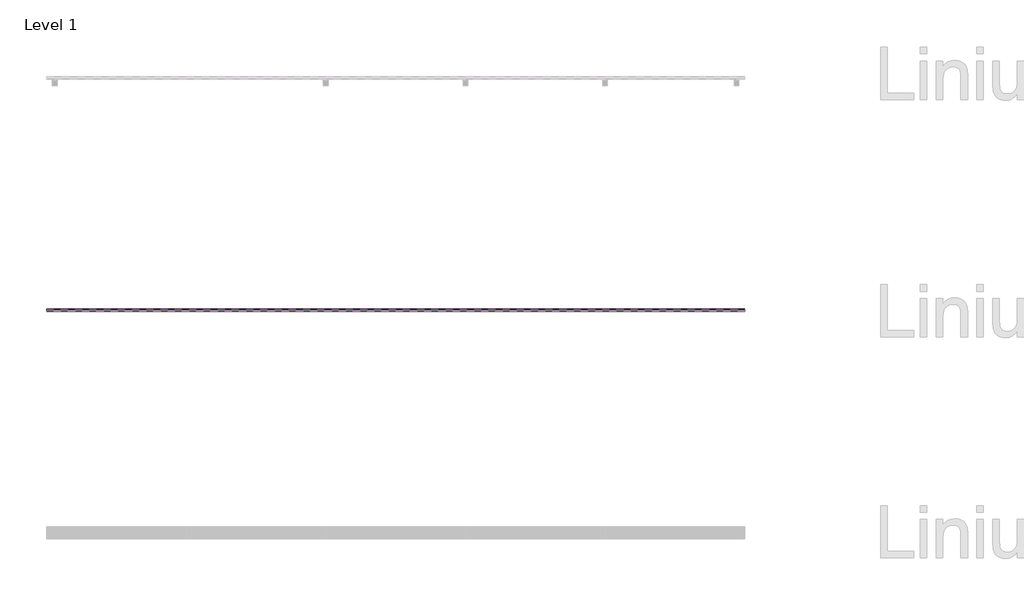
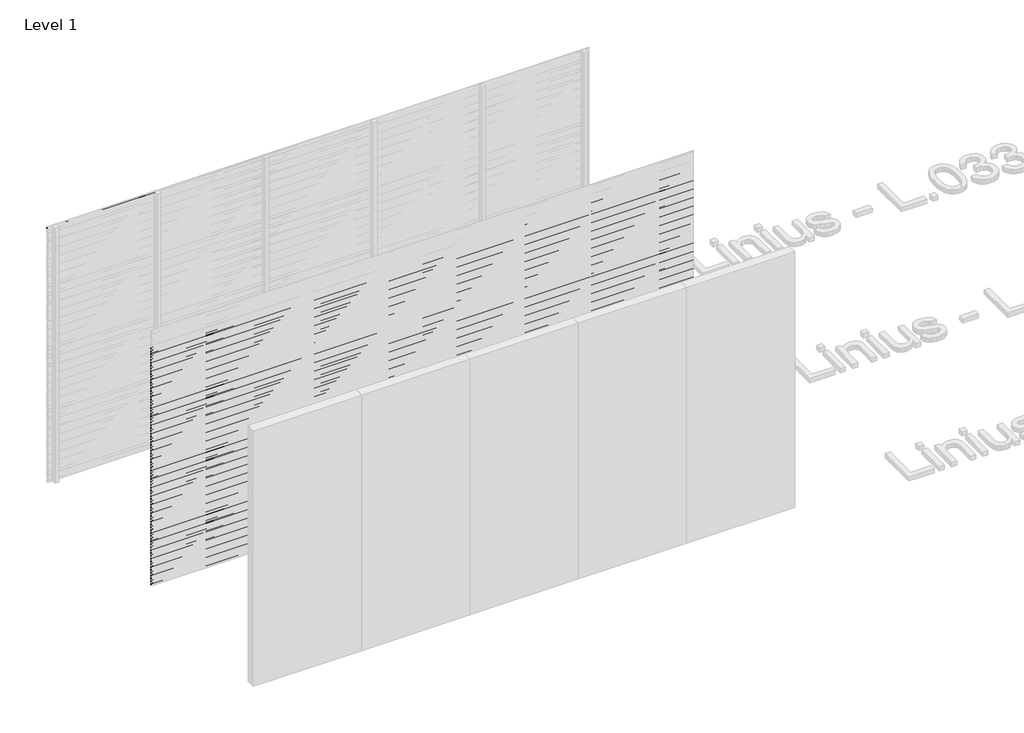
# One storey, part 49 of 507: 85 proxies.
"""IFC4 building model written with IfcOpenShell, lengths in millimetres."""

from ifc_helpers import new_model, si_unit, frame, origin, place, context, project, spatial, polyline, outline, extrude, element, save

model = new_model("IFC4")

# Units and contexts
model_context = context("Model", 3, world=origin())
ifc_project = project(units=[si_unit("LENGTHUNIT", "METRE", prefix="MILLI")], contexts=[model_context])

# Site, building, storey
site = spatial("IfcSite", under=ifc_project)
building = spatial("IfcBuilding", under=site)
storey = spatial("IfcBuildingStorey", under=building, Name="Level 1", Elevation=0.0)

# Proxies
placement = place(None, origin())
element("IfcBuildingElementProxy", 1, Name="Wall Sweeps", at=placement, inside=storey, context=model_context, shape_type="SweptSolid", body=[
    extrude(outline(polyline([(36503.4540136, 2973.0), (36503.4540136, 2959.5), (36502.2040136, 2960.2216933), (36502.2040136, 2972.2782281), (36483.0540136, 2983.3345698), (36483.0540136, 2997.0), (36484.3040136, 2997.0), (36484.3040136, 2984.0562577), (36503.4540136, 2973.0)])), frame((44966.6208097, 0.0, 0.0), z_axis=(1.0, 0.0, 0.0), x_axis=(0.0, 1.0, 0.0)), (0.0, 0.0, 1.0), 1200.0000002),
])
element("IfcBuildingElementProxy", 2, Name="Wall Sweeps", at=placement, inside=storey, context=model_context, shape_type="SweptSolid", body=[
    extrude(outline(polyline([(34503.4540136, 2773.2), (34503.4540136, 2759.7), (34502.2040136, 2760.4216933), (34502.2040136, 2772.4782281), (34483.0540136, 2783.5345698), (34483.0540136, 2797.2), (34484.3040136, 2797.2), (34484.3040136, 2784.2562577), (34503.4540136, 2773.2)])), frame((44966.6208097, 0.0, 0.0), z_axis=(1.0, 0.0, 0.0), x_axis=(0.0, 1.0, 0.0)), (0.0, 0.0, 1.0), 6000.0),
])
element("IfcBuildingElementProxy", 3, Name="Wall Sweeps", at=placement, inside=storey, context=model_context, shape_type="SweptSolid", body=[
    extrude(outline(polyline([(34503.4540136, 2739.9), (34503.4540136, 2726.4), (34502.2040136, 2727.1216933), (34502.2040136, 2739.1782281), (34483.0540136, 2750.2345698), (34483.0540136, 2763.9), (34484.3040136, 2763.9), (34484.3040136, 2750.9562577), (34503.4540136, 2739.9)])), frame((44966.6208097, 0.0, 0.0), z_axis=(1.0, 0.0, 0.0), x_axis=(0.0, 1.0, 0.0)), (0.0, 0.0, 1.0), 6000.0),
])
element("IfcBuildingElementProxy", 4, Name="Wall Sweeps", at=placement, inside=storey, context=model_context, shape_type="SweptSolid", body=[
    extrude(outline(polyline([(34503.4540136, 2706.6), (34503.4540136, 2693.1), (34502.2040136, 2693.8216933), (34502.2040136, 2705.8782281), (34483.0540136, 2716.9345698), (34483.0540136, 2730.6), (34484.3040136, 2730.6), (34484.3040136, 2717.6562577), (34503.4540136, 2706.6)])), frame((44966.6208097, 0.0, 0.0), z_axis=(1.0, 0.0, 0.0), x_axis=(0.0, 1.0, 0.0)), (0.0, 0.0, 1.0), 6000.0),
])
element("IfcBuildingElementProxy", 5, Name="Wall Sweeps", at=placement, inside=storey, context=model_context, shape_type="SweptSolid", body=[
    extrude(outline(polyline([(34503.4540136, 2673.3), (34503.4540136, 2659.8), (34502.2040136, 2660.5216933), (34502.2040136, 2672.5782281), (34483.0540136, 2683.6345698), (34483.0540136, 2697.3), (34484.3040136, 2697.3), (34484.3040136, 2684.3562577), (34503.4540136, 2673.3)])), frame((44966.6208097, 0.0, 0.0), z_axis=(1.0, 0.0, 0.0), x_axis=(0.0, 1.0, 0.0)), (0.0, 0.0, 1.0), 6000.0),
])
element("IfcBuildingElementProxy", 6, Name="Wall Sweeps", at=placement, inside=storey, context=model_context, shape_type="SweptSolid", body=[
    extrude(outline(polyline([(34503.4540136, 2640.0), (34503.4540136, 2626.5), (34502.2040136, 2627.2216933), (34502.2040136, 2639.2782281), (34483.0540136, 2650.3345698), (34483.0540136, 2664.0), (34484.3040136, 2664.0), (34484.3040136, 2651.0562577), (34503.4540136, 2640.0)])), frame((44966.6208097, 0.0, 0.0), z_axis=(1.0, 0.0, 0.0), x_axis=(0.0, 1.0, 0.0)), (0.0, 0.0, 1.0), 6000.0),
])
element("IfcBuildingElementProxy", 7, Name="Wall Sweeps", at=placement, inside=storey, context=model_context, shape_type="SweptSolid", body=[
    extrude(outline(polyline([(34503.4540136, 2606.7), (34503.4540136, 2593.2), (34502.2040136, 2593.9216933), (34502.2040136, 2605.9782281), (34483.0540136, 2617.0345698), (34483.0540136, 2630.7), (34484.3040136, 2630.7), (34484.3040136, 2617.7562577), (34503.4540136, 2606.7)])), frame((44966.6208097, 0.0, 0.0), z_axis=(1.0, 0.0, 0.0), x_axis=(0.0, 1.0, 0.0)), (0.0, 0.0, 1.0), 6000.0),
])
element("IfcBuildingElementProxy", 8, Name="Wall Sweeps", at=placement, inside=storey, context=model_context, shape_type="SweptSolid", body=[
    extrude(outline(polyline([(34503.4540136, 2573.4), (34503.4540136, 2559.9), (34502.2040136, 2560.6216933), (34502.2040136, 2572.6782281), (34483.0540136, 2583.7345698), (34483.0540136, 2597.4), (34484.3040136, 2597.4), (34484.3040136, 2584.4562577), (34503.4540136, 2573.4)])), frame((44966.6208097, 0.0, 0.0), z_axis=(1.0, 0.0, 0.0), x_axis=(0.0, 1.0, 0.0)), (0.0, 0.0, 1.0), 6000.0),
])
element("IfcBuildingElementProxy", 9, Name="Wall Sweeps", at=placement, inside=storey, context=model_context, shape_type="SweptSolid", body=[
    extrude(outline(polyline([(34503.4540136, 2540.1), (34503.4540136, 2526.6), (34502.2040136, 2527.3216933), (34502.2040136, 2539.3782281), (34483.0540136, 2550.4345698), (34483.0540136, 2564.1), (34484.3040136, 2564.1), (34484.3040136, 2551.1562577), (34503.4540136, 2540.1)])), frame((44966.6208097, 0.0, 0.0), z_axis=(1.0, 0.0, 0.0), x_axis=(0.0, 1.0, 0.0)), (0.0, 0.0, 1.0), 6000.0),
])
element("IfcBuildingElementProxy", 10, Name="Wall Sweeps", at=placement, inside=storey, context=model_context, shape_type="SweptSolid", body=[
    extrude(outline(polyline([(34503.4540136, 2506.8), (34503.4540136, 2493.3), (34502.2040136, 2494.0216933), (34502.2040136, 2506.0782281), (34483.0540136, 2517.1345698), (34483.0540136, 2530.8), (34484.3040136, 2530.8), (34484.3040136, 2517.8562577), (34503.4540136, 2506.8)])), frame((44966.6208097, 0.0, 0.0), z_axis=(1.0, 0.0, 0.0), x_axis=(0.0, 1.0, 0.0)), (0.0, 0.0, 1.0), 6000.0),
])
element("IfcBuildingElementProxy", 11, Name="Wall Sweeps", at=placement, inside=storey, context=model_context, shape_type="SweptSolid", body=[
    extrude(outline(polyline([(34503.4540136, 2473.5), (34503.4540136, 2460.0), (34502.2040136, 2460.7216933), (34502.2040136, 2472.7782281), (34483.0540136, 2483.8345698), (34483.0540136, 2497.5), (34484.3040136, 2497.5), (34484.3040136, 2484.5562577), (34503.4540136, 2473.5)])), frame((44966.6208097, 0.0, 0.0), z_axis=(1.0, 0.0, 0.0), x_axis=(0.0, 1.0, 0.0)), (0.0, 0.0, 1.0), 6000.0),
])
element("IfcBuildingElementProxy", 12, Name="Wall Sweeps", at=placement, inside=storey, context=model_context, shape_type="SweptSolid", body=[
    extrude(outline(polyline([(34503.4540136, 2440.2), (34503.4540136, 2426.7), (34502.2040136, 2427.4216933), (34502.2040136, 2439.4782281), (34483.0540136, 2450.5345698), (34483.0540136, 2464.2), (34484.3040136, 2464.2), (34484.3040136, 2451.2562577), (34503.4540136, 2440.2)])), frame((44966.6208097, 0.0, 0.0), z_axis=(1.0, 0.0, 0.0), x_axis=(0.0, 1.0, 0.0)), (0.0, 0.0, 1.0), 6000.0),
])
element("IfcBuildingElementProxy", 13, Name="Wall Sweeps", at=placement, inside=storey, context=model_context, shape_type="SweptSolid", body=[
    extrude(outline(polyline([(34503.4540136, 2406.9), (34503.4540136, 2393.4), (34502.2040136, 2394.1216933), (34502.2040136, 2406.1782281), (34483.0540136, 2417.2345698), (34483.0540136, 2430.9), (34484.3040136, 2430.9), (34484.3040136, 2417.9562577), (34503.4540136, 2406.9)])), frame((44966.6208097, 0.0, 0.0), z_axis=(1.0, 0.0, 0.0), x_axis=(0.0, 1.0, 0.0)), (0.0, 0.0, 1.0), 6000.0),
])
element("IfcBuildingElementProxy", 14, Name="Wall Sweeps", at=placement, inside=storey, context=model_context, shape_type="SweptSolid", body=[
    extrude(outline(polyline([(34503.4540136, 2373.6), (34503.4540136, 2360.1), (34502.2040136, 2360.8216933), (34502.2040136, 2372.8782281), (34483.0540136, 2383.9345698), (34483.0540136, 2397.6), (34484.3040136, 2397.6), (34484.3040136, 2384.6562577), (34503.4540136, 2373.6)])), frame((44966.6208097, 0.0, 0.0), z_axis=(1.0, 0.0, 0.0), x_axis=(0.0, 1.0, 0.0)), (0.0, 0.0, 1.0), 6000.0),
])
element("IfcBuildingElementProxy", 15, Name="Wall Sweeps", at=placement, inside=storey, context=model_context, shape_type="SweptSolid", body=[
    extrude(outline(polyline([(34503.4540136, 2340.3), (34503.4540136, 2326.8), (34502.2040136, 2327.5216933), (34502.2040136, 2339.5782281), (34483.0540136, 2350.6345698), (34483.0540136, 2364.3), (34484.3040136, 2364.3), (34484.3040136, 2351.3562577), (34503.4540136, 2340.3)])), frame((44966.6208097, 0.0, 0.0), z_axis=(1.0, 0.0, 0.0), x_axis=(0.0, 1.0, 0.0)), (0.0, 0.0, 1.0), 6000.0),
])
element("IfcBuildingElementProxy", 16, Name="Wall Sweeps", at=placement, inside=storey, context=model_context, shape_type="SweptSolid", body=[
    extrude(outline(polyline([(34503.4540136, 2307.0), (34503.4540136, 2293.5), (34502.2040136, 2294.2216933), (34502.2040136, 2306.2782281), (34483.0540136, 2317.3345698), (34483.0540136, 2331.0), (34484.3040136, 2331.0), (34484.3040136, 2318.0562577), (34503.4540136, 2307.0)])), frame((44966.6208097, 0.0, 0.0), z_axis=(1.0, 0.0, 0.0), x_axis=(0.0, 1.0, 0.0)), (0.0, 0.0, 1.0), 6000.0),
])
element("IfcBuildingElementProxy", 17, Name="Wall Sweeps", at=placement, inside=storey, context=model_context, shape_type="SweptSolid", body=[
    extrude(outline(polyline([(34503.4540136, 2273.7), (34503.4540136, 2260.2), (34502.2040136, 2260.9216933), (34502.2040136, 2272.9782281), (34483.0540136, 2284.0345698), (34483.0540136, 2297.7), (34484.3040136, 2297.7), (34484.3040136, 2284.7562577), (34503.4540136, 2273.7)])), frame((44966.6208097, 0.0, 0.0), z_axis=(1.0, 0.0, 0.0), x_axis=(0.0, 1.0, 0.0)), (0.0, 0.0, 1.0), 6000.0),
])
element("IfcBuildingElementProxy", 18, Name="Wall Sweeps", at=placement, inside=storey, context=model_context, shape_type="SweptSolid", body=[
    extrude(outline(polyline([(34503.4540136, 2240.4), (34503.4540136, 2226.9), (34502.2040136, 2227.6216933), (34502.2040136, 2239.6782281), (34483.0540136, 2250.7345698), (34483.0540136, 2264.4), (34484.3040136, 2264.4), (34484.3040136, 2251.4562577), (34503.4540136, 2240.4)])), frame((44966.6208097, 0.0, 0.0), z_axis=(1.0, 0.0, 0.0), x_axis=(0.0, 1.0, 0.0)), (0.0, 0.0, 1.0), 6000.0),
])
element("IfcBuildingElementProxy", 19, Name="Wall Sweeps", at=placement, inside=storey, context=model_context, shape_type="SweptSolid", body=[
    extrude(outline(polyline([(34503.4540136, 2207.1), (34503.4540136, 2193.6), (34502.2040136, 2194.3216933), (34502.2040136, 2206.3782281), (34483.0540136, 2217.4345698), (34483.0540136, 2231.1), (34484.3040136, 2231.1), (34484.3040136, 2218.1562577), (34503.4540136, 2207.1)])), frame((44966.6208097, 0.0, 0.0), z_axis=(1.0, 0.0, 0.0), x_axis=(0.0, 1.0, 0.0)), (0.0, 0.0, 1.0), 6000.0),
])
element("IfcBuildingElementProxy", 20, Name="Wall Sweeps", at=placement, inside=storey, context=model_context, shape_type="SweptSolid", body=[
    extrude(outline(polyline([(34503.4540136, 2173.8), (34503.4540136, 2160.3), (34502.2040136, 2161.0216933), (34502.2040136, 2173.0782281), (34483.0540136, 2184.1345698), (34483.0540136, 2197.8), (34484.3040136, 2197.8), (34484.3040136, 2184.8562577), (34503.4540136, 2173.8)])), frame((44966.6208097, 0.0, 0.0), z_axis=(1.0, 0.0, 0.0), x_axis=(0.0, 1.0, 0.0)), (0.0, 0.0, 1.0), 6000.0),
])
element("IfcBuildingElementProxy", 21, Name="Wall Sweeps", at=placement, inside=storey, context=model_context, shape_type="SweptSolid", body=[
    extrude(outline(polyline([(34503.4540136, 2140.5), (34503.4540136, 2127.0), (34502.2040136, 2127.7216933), (34502.2040136, 2139.7782281), (34483.0540136, 2150.8345698), (34483.0540136, 2164.5), (34484.3040136, 2164.5), (34484.3040136, 2151.5562577), (34503.4540136, 2140.5)])), frame((44966.6208097, 0.0, 0.0), z_axis=(1.0, 0.0, 0.0), x_axis=(0.0, 1.0, 0.0)), (0.0, 0.0, 1.0), 6000.0),
])
element("IfcBuildingElementProxy", 22, Name="Wall Sweeps", at=placement, inside=storey, context=model_context, shape_type="SweptSolid", body=[
    extrude(outline(polyline([(34503.4540136, 2107.2), (34503.4540136, 2093.7), (34502.2040136, 2094.4216933), (34502.2040136, 2106.4782281), (34483.0540136, 2117.5345698), (34483.0540136, 2131.2), (34484.3040136, 2131.2), (34484.3040136, 2118.2562577), (34503.4540136, 2107.2)])), frame((44966.6208097, 0.0, 0.0), z_axis=(1.0, 0.0, 0.0), x_axis=(0.0, 1.0, 0.0)), (0.0, 0.0, 1.0), 6000.0),
])
element("IfcBuildingElementProxy", 23, Name="Wall Sweeps", at=placement, inside=storey, context=model_context, shape_type="SweptSolid", body=[
    extrude(outline(polyline([(34503.4540136, 2073.9), (34503.4540136, 2060.4), (34502.2040136, 2061.1216933), (34502.2040136, 2073.1782281), (34483.0540136, 2084.2345698), (34483.0540136, 2097.9), (34484.3040136, 2097.9), (34484.3040136, 2084.9562577), (34503.4540136, 2073.9)])), frame((44966.6208097, 0.0, 0.0), z_axis=(1.0, 0.0, 0.0), x_axis=(0.0, 1.0, 0.0)), (0.0, 0.0, 1.0), 6000.0),
])
element("IfcBuildingElementProxy", 24, Name="Wall Sweeps", at=placement, inside=storey, context=model_context, shape_type="SweptSolid", body=[
    extrude(outline(polyline([(34503.4540136, 2040.6), (34503.4540136, 2027.1), (34502.2040136, 2027.8216933), (34502.2040136, 2039.8782281), (34483.0540136, 2050.9345698), (34483.0540136, 2064.6), (34484.3040136, 2064.6), (34484.3040136, 2051.6562577), (34503.4540136, 2040.6)])), frame((44966.6208097, 0.0, 0.0), z_axis=(1.0, 0.0, 0.0), x_axis=(0.0, 1.0, 0.0)), (0.0, 0.0, 1.0), 6000.0),
])
element("IfcBuildingElementProxy", 25, Name="Wall Sweeps", at=placement, inside=storey, context=model_context, shape_type="SweptSolid", body=[
    extrude(outline(polyline([(34503.4540136, 2007.3), (34503.4540136, 1993.8), (34502.2040136, 1994.5216933), (34502.2040136, 2006.5782281), (34483.0540136, 2017.6345698), (34483.0540136, 2031.3), (34484.3040136, 2031.3), (34484.3040136, 2018.3562577), (34503.4540136, 2007.3)])), frame((44966.6208097, 0.0, 0.0), z_axis=(1.0, 0.0, 0.0), x_axis=(0.0, 1.0, 0.0)), (0.0, 0.0, 1.0), 6000.0),
])
element("IfcBuildingElementProxy", 26, Name="Wall Sweeps", at=placement, inside=storey, context=model_context, shape_type="SweptSolid", body=[
    extrude(outline(polyline([(34503.4540136, 1974.0), (34503.4540136, 1960.5), (34502.2040136, 1961.2216933), (34502.2040136, 1973.2782281), (34483.0540136, 1984.3345698), (34483.0540136, 1998.0), (34484.3040136, 1998.0), (34484.3040136, 1985.0562577), (34503.4540136, 1974.0)])), frame((44966.6208097, 0.0, 0.0), z_axis=(1.0, 0.0, 0.0), x_axis=(0.0, 1.0, 0.0)), (0.0, 0.0, 1.0), 6000.0),
])
element("IfcBuildingElementProxy", 27, Name="Wall Sweeps", at=placement, inside=storey, context=model_context, shape_type="SweptSolid", body=[
    extrude(outline(polyline([(34503.4540136, 1940.7), (34503.4540136, 1927.2), (34502.2040136, 1927.9216933), (34502.2040136, 1939.9782281), (34483.0540136, 1951.0345698), (34483.0540136, 1964.7), (34484.3040136, 1964.7), (34484.3040136, 1951.7562577), (34503.4540136, 1940.7)])), frame((44966.6208097, 0.0, 0.0), z_axis=(1.0, 0.0, 0.0), x_axis=(0.0, 1.0, 0.0)), (0.0, 0.0, 1.0), 6000.0),
])
element("IfcBuildingElementProxy", 28, Name="Wall Sweeps", at=placement, inside=storey, context=model_context, shape_type="SweptSolid", body=[
    extrude(outline(polyline([(34503.4540136, 1907.4), (34503.4540136, 1893.9), (34502.2040136, 1894.6216933), (34502.2040136, 1906.6782281), (34483.0540136, 1917.7345698), (34483.0540136, 1931.4), (34484.3040136, 1931.4), (34484.3040136, 1918.4562577), (34503.4540136, 1907.4)])), frame((44966.6208097, 0.0, 0.0), z_axis=(1.0, 0.0, 0.0), x_axis=(0.0, 1.0, 0.0)), (0.0, 0.0, 1.0), 6000.0),
])
element("IfcBuildingElementProxy", 29, Name="Wall Sweeps", at=placement, inside=storey, context=model_context, shape_type="SweptSolid", body=[
    extrude(outline(polyline([(34503.4540136, 1874.1), (34503.4540136, 1860.6), (34502.2040136, 1861.3216933), (34502.2040136, 1873.3782281), (34483.0540136, 1884.4345698), (34483.0540136, 1898.1), (34484.3040136, 1898.1), (34484.3040136, 1885.1562577), (34503.4540136, 1874.1)])), frame((44966.6208097, 0.0, 0.0), z_axis=(1.0, 0.0, 0.0), x_axis=(0.0, 1.0, 0.0)), (0.0, 0.0, 1.0), 6000.0),
])
element("IfcBuildingElementProxy", 30, Name="Wall Sweeps", at=placement, inside=storey, context=model_context, shape_type="SweptSolid", body=[
    extrude(outline(polyline([(34503.4540136, 1840.8), (34503.4540136, 1827.3), (34502.2040136, 1828.0216933), (34502.2040136, 1840.0782281), (34483.0540136, 1851.1345698), (34483.0540136, 1864.8), (34484.3040136, 1864.8), (34484.3040136, 1851.8562577), (34503.4540136, 1840.8)])), frame((44966.6208097, 0.0, 0.0), z_axis=(1.0, 0.0, 0.0), x_axis=(0.0, 1.0, 0.0)), (0.0, 0.0, 1.0), 6000.0),
])
element("IfcBuildingElementProxy", 31, Name="Wall Sweeps", at=placement, inside=storey, context=model_context, shape_type="SweptSolid", body=[
    extrude(outline(polyline([(34503.4540136, 1807.5), (34503.4540136, 1794.0), (34502.2040136, 1794.7216933), (34502.2040136, 1806.7782281), (34483.0540136, 1817.8345698), (34483.0540136, 1831.5), (34484.3040136, 1831.5), (34484.3040136, 1818.5562577), (34503.4540136, 1807.5)])), frame((44966.6208097, 0.0, 0.0), z_axis=(1.0, 0.0, 0.0), x_axis=(0.0, 1.0, 0.0)), (0.0, 0.0, 1.0), 6000.0),
])
element("IfcBuildingElementProxy", 32, Name="Wall Sweeps", at=placement, inside=storey, context=model_context, shape_type="SweptSolid", body=[
    extrude(outline(polyline([(34503.4540136, 1774.2), (34503.4540136, 1760.7), (34502.2040136, 1761.4216933), (34502.2040136, 1773.4782281), (34483.0540136, 1784.5345698), (34483.0540136, 1798.2), (34484.3040136, 1798.2), (34484.3040136, 1785.2562577), (34503.4540136, 1774.2)])), frame((44966.6208097, 0.0, 0.0), z_axis=(1.0, 0.0, 0.0), x_axis=(0.0, 1.0, 0.0)), (0.0, 0.0, 1.0), 6000.0),
])
element("IfcBuildingElementProxy", 33, Name="Wall Sweeps", at=placement, inside=storey, context=model_context, shape_type="SweptSolid", body=[
    extrude(outline(polyline([(34503.4540136, 1740.9), (34503.4540136, 1727.4), (34502.2040136, 1728.1216933), (34502.2040136, 1740.1782281), (34483.0540136, 1751.2345698), (34483.0540136, 1764.9), (34484.3040136, 1764.9), (34484.3040136, 1751.9562577), (34503.4540136, 1740.9)])), frame((44966.6208097, 0.0, 0.0), z_axis=(1.0, 0.0, 0.0), x_axis=(0.0, 1.0, 0.0)), (0.0, 0.0, 1.0), 6000.0),
])
element("IfcBuildingElementProxy", 34, Name="Wall Sweeps", at=placement, inside=storey, context=model_context, shape_type="SweptSolid", body=[
    extrude(outline(polyline([(34503.4540136, 1707.6), (34503.4540136, 1694.1), (34502.2040136, 1694.8216933), (34502.2040136, 1706.8782281), (34483.0540136, 1717.9345698), (34483.0540136, 1731.6), (34484.3040136, 1731.6), (34484.3040136, 1718.6562577), (34503.4540136, 1707.6)])), frame((44966.6208097, 0.0, 0.0), z_axis=(1.0, 0.0, 0.0), x_axis=(0.0, 1.0, 0.0)), (0.0, 0.0, 1.0), 6000.0),
])
element("IfcBuildingElementProxy", 35, Name="Wall Sweeps", at=placement, inside=storey, context=model_context, shape_type="SweptSolid", body=[
    extrude(outline(polyline([(34503.4540136, 1674.3), (34503.4540136, 1660.8), (34502.2040136, 1661.5216933), (34502.2040136, 1673.5782281), (34483.0540136, 1684.6345698), (34483.0540136, 1698.3), (34484.3040136, 1698.3), (34484.3040136, 1685.3562577), (34503.4540136, 1674.3)])), frame((44966.6208097, 0.0, 0.0), z_axis=(1.0, 0.0, 0.0), x_axis=(0.0, 1.0, 0.0)), (0.0, 0.0, 1.0), 6000.0),
])
element("IfcBuildingElementProxy", 36, Name="Wall Sweeps", at=placement, inside=storey, context=model_context, shape_type="SweptSolid", body=[
    extrude(outline(polyline([(34503.4540136, 1641.0), (34503.4540136, 1627.5), (34502.2040136, 1628.2216933), (34502.2040136, 1640.2782281), (34483.0540136, 1651.3345698), (34483.0540136, 1665.0), (34484.3040136, 1665.0), (34484.3040136, 1652.0562577), (34503.4540136, 1641.0)])), frame((44966.6208097, 0.0, 0.0), z_axis=(1.0, 0.0, 0.0), x_axis=(0.0, 1.0, 0.0)), (0.0, 0.0, 1.0), 6000.0),
])
element("IfcBuildingElementProxy", 37, Name="Wall Sweeps", at=placement, inside=storey, context=model_context, shape_type="SweptSolid", body=[
    extrude(outline(polyline([(34503.4540136, 1607.7), (34503.4540136, 1594.2), (34502.2040136, 1594.9216933), (34502.2040136, 1606.9782281), (34483.0540136, 1618.0345698), (34483.0540136, 1631.7), (34484.3040136, 1631.7), (34484.3040136, 1618.7562577), (34503.4540136, 1607.7)])), frame((44966.6208097, 0.0, 0.0), z_axis=(1.0, 0.0, 0.0), x_axis=(0.0, 1.0, 0.0)), (0.0, 0.0, 1.0), 6000.0),
])
element("IfcBuildingElementProxy", 38, Name="Wall Sweeps", at=placement, inside=storey, context=model_context, shape_type="SweptSolid", body=[
    extrude(outline(polyline([(34503.4540136, 1574.4), (34503.4540136, 1560.9), (34502.2040136, 1561.6216933), (34502.2040136, 1573.6782281), (34483.0540136, 1584.7345698), (34483.0540136, 1598.4), (34484.3040136, 1598.4), (34484.3040136, 1585.4562577), (34503.4540136, 1574.4)])), frame((44966.6208097, 0.0, 0.0), z_axis=(1.0, 0.0, 0.0), x_axis=(0.0, 1.0, 0.0)), (0.0, 0.0, 1.0), 6000.0),
])
element("IfcBuildingElementProxy", 39, Name="Wall Sweeps", at=placement, inside=storey, context=model_context, shape_type="SweptSolid", body=[
    extrude(outline(polyline([(34503.4540136, 1541.1), (34503.4540136, 1527.6), (34502.2040136, 1528.3216933), (34502.2040136, 1540.3782281), (34483.0540136, 1551.4345698), (34483.0540136, 1565.1), (34484.3040136, 1565.1), (34484.3040136, 1552.1562577), (34503.4540136, 1541.1)])), frame((44966.6208097, 0.0, 0.0), z_axis=(1.0, 0.0, 0.0), x_axis=(0.0, 1.0, 0.0)), (0.0, 0.0, 1.0), 6000.0),
])
element("IfcBuildingElementProxy", 40, Name="Wall Sweeps", at=placement, inside=storey, context=model_context, shape_type="SweptSolid", body=[
    extrude(outline(polyline([(34503.4540136, 1507.8), (34503.4540136, 1494.3), (34502.2040136, 1495.0216933), (34502.2040136, 1507.0782281), (34483.0540136, 1518.1345698), (34483.0540136, 1531.8), (34484.3040136, 1531.8), (34484.3040136, 1518.8562577), (34503.4540136, 1507.8)])), frame((44966.6208097, 0.0, 0.0), z_axis=(1.0, 0.0, 0.0), x_axis=(0.0, 1.0, 0.0)), (0.0, 0.0, 1.0), 6000.0),
])
element("IfcBuildingElementProxy", 41, Name="Wall Sweeps", at=placement, inside=storey, context=model_context, shape_type="SweptSolid", body=[
    extrude(outline(polyline([(34503.4540136, 1474.5), (34503.4540136, 1461.0), (34502.2040136, 1461.7216933), (34502.2040136, 1473.7782281), (34483.0540136, 1484.8345698), (34483.0540136, 1498.5), (34484.3040136, 1498.5), (34484.3040136, 1485.5562577), (34503.4540136, 1474.5)])), frame((44966.6208097, 0.0, 0.0), z_axis=(1.0, 0.0, 0.0), x_axis=(0.0, 1.0, 0.0)), (0.0, 0.0, 1.0), 6000.0),
])
element("IfcBuildingElementProxy", 42, Name="Wall Sweeps", at=placement, inside=storey, context=model_context, shape_type="SweptSolid", body=[
    extrude(outline(polyline([(34503.4540136, 1441.2), (34503.4540136, 1427.7), (34502.2040136, 1428.4216933), (34502.2040136, 1440.4782281), (34483.0540136, 1451.5345698), (34483.0540136, 1465.2), (34484.3040136, 1465.2), (34484.3040136, 1452.2562577), (34503.4540136, 1441.2)])), frame((44966.6208097, 0.0, 0.0), z_axis=(1.0, 0.0, 0.0), x_axis=(0.0, 1.0, 0.0)), (0.0, 0.0, 1.0), 6000.0),
])
element("IfcBuildingElementProxy", 43, Name="Wall Sweeps", at=placement, inside=storey, context=model_context, shape_type="SweptSolid", body=[
    extrude(outline(polyline([(34503.4540136, 1407.9), (34503.4540136, 1394.4), (34502.2040136, 1395.1216933), (34502.2040136, 1407.1782281), (34483.0540136, 1418.2345698), (34483.0540136, 1431.9), (34484.3040136, 1431.9), (34484.3040136, 1418.9562577), (34503.4540136, 1407.9)])), frame((44966.6208097, 0.0, 0.0), z_axis=(1.0, 0.0, 0.0), x_axis=(0.0, 1.0, 0.0)), (0.0, 0.0, 1.0), 6000.0),
])
element("IfcBuildingElementProxy", 44, Name="Wall Sweeps", at=placement, inside=storey, context=model_context, shape_type="SweptSolid", body=[
    extrude(outline(polyline([(34503.4540136, 1374.6), (34503.4540136, 1361.1), (34502.2040136, 1361.8216933), (34502.2040136, 1373.8782281), (34483.0540136, 1384.9345698), (34483.0540136, 1398.6), (34484.3040136, 1398.6), (34484.3040136, 1385.6562577), (34503.4540136, 1374.6)])), frame((44966.6208097, 0.0, 0.0), z_axis=(1.0, 0.0, 0.0), x_axis=(0.0, 1.0, 0.0)), (0.0, 0.0, 1.0), 6000.0),
])
element("IfcBuildingElementProxy", 45, Name="Wall Sweeps", at=placement, inside=storey, context=model_context, shape_type="SweptSolid", body=[
    extrude(outline(polyline([(34503.4540136, 1341.3), (34503.4540136, 1327.8), (34502.2040136, 1328.5216933), (34502.2040136, 1340.5782281), (34483.0540136, 1351.6345698), (34483.0540136, 1365.3), (34484.3040136, 1365.3), (34484.3040136, 1352.3562577), (34503.4540136, 1341.3)])), frame((44966.6208097, 0.0, 0.0), z_axis=(1.0, 0.0, 0.0), x_axis=(0.0, 1.0, 0.0)), (0.0, 0.0, 1.0), 6000.0),
])
element("IfcBuildingElementProxy", 46, Name="Wall Sweeps", at=placement, inside=storey, context=model_context, shape_type="SweptSolid", body=[
    extrude(outline(polyline([(34503.4540136, 1308.0), (34503.4540136, 1294.5), (34502.2040136, 1295.2216933), (34502.2040136, 1307.2782281), (34483.0540136, 1318.3345698), (34483.0540136, 1332.0), (34484.3040136, 1332.0), (34484.3040136, 1319.0562577), (34503.4540136, 1308.0)])), frame((44966.6208097, 0.0, 0.0), z_axis=(1.0, 0.0, 0.0), x_axis=(0.0, 1.0, 0.0)), (0.0, 0.0, 1.0), 6000.0),
])
element("IfcBuildingElementProxy", 47, Name="Wall Sweeps", at=placement, inside=storey, context=model_context, shape_type="SweptSolid", body=[
    extrude(outline(polyline([(34503.4540136, 1274.7), (34503.4540136, 1261.2), (34502.2040136, 1261.9216933), (34502.2040136, 1273.9782281), (34483.0540136, 1285.0345698), (34483.0540136, 1298.7), (34484.3040136, 1298.7), (34484.3040136, 1285.7562577), (34503.4540136, 1274.7)])), frame((44966.6208097, 0.0, 0.0), z_axis=(1.0, 0.0, 0.0), x_axis=(0.0, 1.0, 0.0)), (0.0, 0.0, 1.0), 6000.0),
])
element("IfcBuildingElementProxy", 48, Name="Wall Sweeps", at=placement, inside=storey, context=model_context, shape_type="SweptSolid", body=[
    extrude(outline(polyline([(34503.4540136, 1241.4), (34503.4540136, 1227.9), (34502.2040136, 1228.6216933), (34502.2040136, 1240.6782281), (34483.0540136, 1251.7345698), (34483.0540136, 1265.4), (34484.3040136, 1265.4), (34484.3040136, 1252.4562577), (34503.4540136, 1241.4)])), frame((44966.6208097, 0.0, 0.0), z_axis=(1.0, 0.0, 0.0), x_axis=(0.0, 1.0, 0.0)), (0.0, 0.0, 1.0), 6000.0),
])
element("IfcBuildingElementProxy", 49, Name="Wall Sweeps", at=placement, inside=storey, context=model_context, shape_type="SweptSolid", body=[
    extrude(outline(polyline([(34503.4540136, 1208.1), (34503.4540136, 1194.6), (34502.2040136, 1195.3216933), (34502.2040136, 1207.3782281), (34483.0540136, 1218.4345698), (34483.0540136, 1232.1), (34484.3040136, 1232.1), (34484.3040136, 1219.1562577), (34503.4540136, 1208.1)])), frame((44966.6208097, 0.0, 0.0), z_axis=(1.0, 0.0, 0.0), x_axis=(0.0, 1.0, 0.0)), (0.0, 0.0, 1.0), 6000.0),
])
element("IfcBuildingElementProxy", 50, Name="Wall Sweeps", at=placement, inside=storey, context=model_context, shape_type="SweptSolid", body=[
    extrude(outline(polyline([(34503.4540136, 1174.8), (34503.4540136, 1161.3), (34502.2040136, 1162.0216933), (34502.2040136, 1174.0782281), (34483.0540136, 1185.1345698), (34483.0540136, 1198.8), (34484.3040136, 1198.8), (34484.3040136, 1185.8562577), (34503.4540136, 1174.8)])), frame((44966.6208097, 0.0, 0.0), z_axis=(1.0, 0.0, 0.0), x_axis=(0.0, 1.0, 0.0)), (0.0, 0.0, 1.0), 6000.0),
])
element("IfcBuildingElementProxy", 51, Name="Wall Sweeps", at=placement, inside=storey, context=model_context, shape_type="SweptSolid", body=[
    extrude(outline(polyline([(34503.4540136, 1141.5), (34503.4540136, 1128.0), (34502.2040136, 1128.7216933), (34502.2040136, 1140.7782281), (34483.0540136, 1151.8345698), (34483.0540136, 1165.5), (34484.3040136, 1165.5), (34484.3040136, 1152.5562577), (34503.4540136, 1141.5)])), frame((44966.6208097, 0.0, 0.0), z_axis=(1.0, 0.0, 0.0), x_axis=(0.0, 1.0, 0.0)), (0.0, 0.0, 1.0), 6000.0),
])
element("IfcBuildingElementProxy", 52, Name="Wall Sweeps", at=placement, inside=storey, context=model_context, shape_type="SweptSolid", body=[
    extrude(outline(polyline([(34503.4540136, 1108.2), (34503.4540136, 1094.7), (34502.2040136, 1095.4216933), (34502.2040136, 1107.4782281), (34483.0540136, 1118.5345698), (34483.0540136, 1132.2), (34484.3040136, 1132.2), (34484.3040136, 1119.2562577), (34503.4540136, 1108.2)])), frame((44966.6208097, 0.0, 0.0), z_axis=(1.0, 0.0, 0.0), x_axis=(0.0, 1.0, 0.0)), (0.0, 0.0, 1.0), 6000.0),
])
element("IfcBuildingElementProxy", 53, Name="Wall Sweeps", at=placement, inside=storey, context=model_context, shape_type="SweptSolid", body=[
    extrude(outline(polyline([(34503.4540136, 1074.9), (34503.4540136, 1061.4), (34502.2040136, 1062.1216933), (34502.2040136, 1074.1782281), (34483.0540136, 1085.2345698), (34483.0540136, 1098.9), (34484.3040136, 1098.9), (34484.3040136, 1085.9562577), (34503.4540136, 1074.9)])), frame((44966.6208097, 0.0, 0.0), z_axis=(1.0, 0.0, 0.0), x_axis=(0.0, 1.0, 0.0)), (0.0, 0.0, 1.0), 6000.0),
])
element("IfcBuildingElementProxy", 54, Name="Wall Sweeps", at=placement, inside=storey, context=model_context, shape_type="SweptSolid", body=[
    extrude(outline(polyline([(34503.4540136, 1041.6), (34503.4540136, 1028.1), (34502.2040136, 1028.8216933), (34502.2040136, 1040.8782281), (34483.0540136, 1051.9345698), (34483.0540136, 1065.6), (34484.3040136, 1065.6), (34484.3040136, 1052.6562577), (34503.4540136, 1041.6)])), frame((44966.6208097, 0.0, 0.0), z_axis=(1.0, 0.0, 0.0), x_axis=(0.0, 1.0, 0.0)), (0.0, 0.0, 1.0), 6000.0),
])
element("IfcBuildingElementProxy", 55, Name="Wall Sweeps", at=placement, inside=storey, context=model_context, shape_type="SweptSolid", body=[
    extrude(outline(polyline([(34503.4540136, 1008.3), (34503.4540136, 994.8), (34502.2040136, 995.5216933), (34502.2040136, 1007.5782281), (34483.0540136, 1018.6345698), (34483.0540136, 1032.3), (34484.3040136, 1032.3), (34484.3040136, 1019.3562577), (34503.4540136, 1008.3)])), frame((44966.6208097, 0.0, 0.0), z_axis=(1.0, 0.0, 0.0), x_axis=(0.0, 1.0, 0.0)), (0.0, 0.0, 1.0), 6000.0),
])
element("IfcBuildingElementProxy", 56, Name="Wall Sweeps", at=placement, inside=storey, context=model_context, shape_type="SweptSolid", body=[
    extrude(outline(polyline([(34503.4540136, 975.0), (34503.4540136, 961.5), (34502.2040136, 962.2216933), (34502.2040136, 974.2782281), (34483.0540136, 985.3345698), (34483.0540136, 999.0), (34484.3040136, 999.0), (34484.3040136, 986.0562577), (34503.4540136, 975.0)])), frame((44966.6208097, 0.0, 0.0), z_axis=(1.0, 0.0, 0.0), x_axis=(0.0, 1.0, 0.0)), (0.0, 0.0, 1.0), 6000.0),
])
element("IfcBuildingElementProxy", 57, Name="Wall Sweeps", at=placement, inside=storey, context=model_context, shape_type="SweptSolid", body=[
    extrude(outline(polyline([(34503.4540136, 941.7), (34503.4540136, 928.2), (34502.2040136, 928.9216933), (34502.2040136, 940.9782281), (34483.0540136, 952.0345698), (34483.0540136, 965.7), (34484.3040136, 965.7), (34484.3040136, 952.7562577), (34503.4540136, 941.7)])), frame((44966.6208097, 0.0, 0.0), z_axis=(1.0, 0.0, 0.0), x_axis=(0.0, 1.0, 0.0)), (0.0, 0.0, 1.0), 6000.0),
])
element("IfcBuildingElementProxy", 58, Name="Wall Sweeps", at=placement, inside=storey, context=model_context, shape_type="SweptSolid", body=[
    extrude(outline(polyline([(34503.4540136, 908.4), (34503.4540136, 894.9), (34502.2040136, 895.6216933), (34502.2040136, 907.6782281), (34483.0540136, 918.7345698), (34483.0540136, 932.4), (34484.3040136, 932.4), (34484.3040136, 919.4562577), (34503.4540136, 908.4)])), frame((44966.6208097, 0.0, 0.0), z_axis=(1.0, 0.0, 0.0), x_axis=(0.0, 1.0, 0.0)), (0.0, 0.0, 1.0), 6000.0),
])
element("IfcBuildingElementProxy", 59, Name="Wall Sweeps", at=placement, inside=storey, context=model_context, shape_type="SweptSolid", body=[
    extrude(outline(polyline([(34503.4540136, 875.1), (34503.4540136, 861.6), (34502.2040136, 862.3216933), (34502.2040136, 874.3782281), (34483.0540136, 885.4345698), (34483.0540136, 899.1), (34484.3040136, 899.1), (34484.3040136, 886.1562577), (34503.4540136, 875.1)])), frame((44966.6208097, 0.0, 0.0), z_axis=(1.0, 0.0, 0.0), x_axis=(0.0, 1.0, 0.0)), (0.0, 0.0, 1.0), 6000.0),
])
element("IfcBuildingElementProxy", 60, Name="Wall Sweeps", at=placement, inside=storey, context=model_context, shape_type="SweptSolid", body=[
    extrude(outline(polyline([(34503.4540136, 841.8), (34503.4540136, 828.3), (34502.2040136, 829.0216933), (34502.2040136, 841.0782281), (34483.0540136, 852.1345698), (34483.0540136, 865.8), (34484.3040136, 865.8), (34484.3040136, 852.8562577), (34503.4540136, 841.8)])), frame((44966.6208097, 0.0, 0.0), z_axis=(1.0, 0.0, 0.0), x_axis=(0.0, 1.0, 0.0)), (0.0, 0.0, 1.0), 6000.0),
])
element("IfcBuildingElementProxy", 61, Name="Wall Sweeps", at=placement, inside=storey, context=model_context, shape_type="SweptSolid", body=[
    extrude(outline(polyline([(34503.4540136, 808.5), (34503.4540136, 795.0), (34502.2040136, 795.7216933), (34502.2040136, 807.7782281), (34483.0540136, 818.8345698), (34483.0540136, 832.5), (34484.3040136, 832.5), (34484.3040136, 819.5562577), (34503.4540136, 808.5)])), frame((44966.6208097, 0.0, 0.0), z_axis=(1.0, 0.0, 0.0), x_axis=(0.0, 1.0, 0.0)), (0.0, 0.0, 1.0), 6000.0),
])
element("IfcBuildingElementProxy", 62, Name="Wall Sweeps", at=placement, inside=storey, context=model_context, shape_type="SweptSolid", body=[
    extrude(outline(polyline([(34503.4540136, 775.2), (34503.4540136, 761.7), (34502.2040136, 762.4216933), (34502.2040136, 774.4782281), (34483.0540136, 785.5345698), (34483.0540136, 799.2), (34484.3040136, 799.2), (34484.3040136, 786.2562577), (34503.4540136, 775.2)])), frame((44966.6208097, 0.0, 0.0), z_axis=(1.0, 0.0, 0.0), x_axis=(0.0, 1.0, 0.0)), (0.0, 0.0, 1.0), 6000.0),
])
element("IfcBuildingElementProxy", 63, Name="Wall Sweeps", at=placement, inside=storey, context=model_context, shape_type="SweptSolid", body=[
    extrude(outline(polyline([(34503.4540136, 741.9), (34503.4540136, 728.4), (34502.2040136, 729.1216933), (34502.2040136, 741.1782281), (34483.0540136, 752.2345698), (34483.0540136, 765.9), (34484.3040136, 765.9), (34484.3040136, 752.9562577), (34503.4540136, 741.9)])), frame((44966.6208097, 0.0, 0.0), z_axis=(1.0, 0.0, 0.0), x_axis=(0.0, 1.0, 0.0)), (0.0, 0.0, 1.0), 6000.0),
])
element("IfcBuildingElementProxy", 64, Name="Wall Sweeps", at=placement, inside=storey, context=model_context, shape_type="SweptSolid", body=[
    extrude(outline(polyline([(34503.4540136, 708.6), (34503.4540136, 695.1), (34502.2040136, 695.8216933), (34502.2040136, 707.8782281), (34483.0540136, 718.9345698), (34483.0540136, 732.6), (34484.3040136, 732.6), (34484.3040136, 719.6562577), (34503.4540136, 708.6)])), frame((44966.6208097, 0.0, 0.0), z_axis=(1.0, 0.0, 0.0), x_axis=(0.0, 1.0, 0.0)), (0.0, 0.0, 1.0), 6000.0),
])
element("IfcBuildingElementProxy", 65, Name="Wall Sweeps", at=placement, inside=storey, context=model_context, shape_type="SweptSolid", body=[
    extrude(outline(polyline([(34503.4540136, 675.3), (34503.4540136, 661.8), (34502.2040136, 662.5216933), (34502.2040136, 674.5782281), (34483.0540136, 685.6345698), (34483.0540136, 699.3), (34484.3040136, 699.3), (34484.3040136, 686.3562577), (34503.4540136, 675.3)])), frame((44966.6208097, 0.0, 0.0), z_axis=(1.0, 0.0, 0.0), x_axis=(0.0, 1.0, 0.0)), (0.0, 0.0, 1.0), 6000.0),
])
element("IfcBuildingElementProxy", 66, Name="Wall Sweeps", at=placement, inside=storey, context=model_context, shape_type="SweptSolid", body=[
    extrude(outline(polyline([(34503.4540136, 642.0), (34503.4540136, 628.5), (34502.2040136, 629.2216933), (34502.2040136, 641.2782281), (34483.0540136, 652.3345698), (34483.0540136, 666.0), (34484.3040136, 666.0), (34484.3040136, 653.0562577), (34503.4540136, 642.0)])), frame((44966.6208097, 0.0, 0.0), z_axis=(1.0, 0.0, 0.0), x_axis=(0.0, 1.0, 0.0)), (0.0, 0.0, 1.0), 6000.0),
])
element("IfcBuildingElementProxy", 67, Name="Wall Sweeps", at=placement, inside=storey, context=model_context, shape_type="SweptSolid", body=[
    extrude(outline(polyline([(34503.4540136, 608.7), (34503.4540136, 595.2), (34502.2040136, 595.9216933), (34502.2040136, 607.9782281), (34483.0540136, 619.0345698), (34483.0540136, 632.7), (34484.3040136, 632.7), (34484.3040136, 619.7562577), (34503.4540136, 608.7)])), frame((44966.6208097, 0.0, 0.0), z_axis=(1.0, 0.0, 0.0), x_axis=(0.0, 1.0, 0.0)), (0.0, 0.0, 1.0), 6000.0),
])
element("IfcBuildingElementProxy", 68, Name="Wall Sweeps", at=placement, inside=storey, context=model_context, shape_type="SweptSolid", body=[
    extrude(outline(polyline([(34503.4540136, 575.4), (34503.4540136, 561.9), (34502.2040136, 562.6216933), (34502.2040136, 574.6782281), (34483.0540136, 585.7345698), (34483.0540136, 599.4), (34484.3040136, 599.4), (34484.3040136, 586.4562577), (34503.4540136, 575.4)])), frame((44966.6208097, 0.0, 0.0), z_axis=(1.0, 0.0, 0.0), x_axis=(0.0, 1.0, 0.0)), (0.0, 0.0, 1.0), 6000.0),
])
element("IfcBuildingElementProxy", 69, Name="Wall Sweeps", at=placement, inside=storey, context=model_context, shape_type="SweptSolid", body=[
    extrude(outline(polyline([(34503.4540136, 542.1), (34503.4540136, 528.6), (34502.2040136, 529.3216933), (34502.2040136, 541.3782281), (34483.0540136, 552.4345698), (34483.0540136, 566.1), (34484.3040136, 566.1), (34484.3040136, 553.1562577), (34503.4540136, 542.1)])), frame((44966.6208097, 0.0, 0.0), z_axis=(1.0, 0.0, 0.0), x_axis=(0.0, 1.0, 0.0)), (0.0, 0.0, 1.0), 6000.0),
])
element("IfcBuildingElementProxy", 70, Name="Wall Sweeps", at=placement, inside=storey, context=model_context, shape_type="SweptSolid", body=[
    extrude(outline(polyline([(34503.4540136, 508.8), (34503.4540136, 495.3), (34502.2040136, 496.0216933), (34502.2040136, 508.0782281), (34483.0540136, 519.1345698), (34483.0540136, 532.8), (34484.3040136, 532.8), (34484.3040136, 519.8562577), (34503.4540136, 508.8)])), frame((44966.6208097, 0.0, 0.0), z_axis=(1.0, 0.0, 0.0), x_axis=(0.0, 1.0, 0.0)), (0.0, 0.0, 1.0), 6000.0),
])
element("IfcBuildingElementProxy", 71, Name="Wall Sweeps", at=placement, inside=storey, context=model_context, shape_type="SweptSolid", body=[
    extrude(outline(polyline([(34503.4540136, 475.5), (34503.4540136, 462.0), (34502.2040136, 462.7216933), (34502.2040136, 474.7782281), (34483.0540136, 485.8345698), (34483.0540136, 499.5), (34484.3040136, 499.5), (34484.3040136, 486.5562577), (34503.4540136, 475.5)])), frame((44966.6208097, 0.0, 0.0), z_axis=(1.0, 0.0, 0.0), x_axis=(0.0, 1.0, 0.0)), (0.0, 0.0, 1.0), 6000.0),
])
element("IfcBuildingElementProxy", 72, Name="Wall Sweeps", at=placement, inside=storey, context=model_context, shape_type="SweptSolid", body=[
    extrude(outline(polyline([(34503.4540136, 442.2), (34503.4540136, 428.7), (34502.2040136, 429.4216933), (34502.2040136, 441.4782281), (34483.0540136, 452.5345698), (34483.0540136, 466.2), (34484.3040136, 466.2), (34484.3040136, 453.2562577), (34503.4540136, 442.2)])), frame((44966.6208097, 0.0, 0.0), z_axis=(1.0, 0.0, 0.0), x_axis=(0.0, 1.0, 0.0)), (0.0, 0.0, 1.0), 6000.0),
])
element("IfcBuildingElementProxy", 73, Name="Wall Sweeps", at=placement, inside=storey, context=model_context, shape_type="SweptSolid", body=[
    extrude(outline(polyline([(34503.4540136, 408.9), (34503.4540136, 395.4), (34502.2040136, 396.1216933), (34502.2040136, 408.1782281), (34483.0540136, 419.2345698), (34483.0540136, 432.9), (34484.3040136, 432.9), (34484.3040136, 419.9562577), (34503.4540136, 408.9)])), frame((44966.6208097, 0.0, 0.0), z_axis=(1.0, 0.0, 0.0), x_axis=(0.0, 1.0, 0.0)), (0.0, 0.0, 1.0), 6000.0),
])
element("IfcBuildingElementProxy", 74, Name="Wall Sweeps", at=placement, inside=storey, context=model_context, shape_type="SweptSolid", body=[
    extrude(outline(polyline([(34503.4540136, 375.6), (34503.4540136, 362.1), (34502.2040136, 362.8216933), (34502.2040136, 374.8782281), (34483.0540136, 385.9345698), (34483.0540136, 399.6), (34484.3040136, 399.6), (34484.3040136, 386.6562577), (34503.4540136, 375.6)])), frame((44966.6208097, 0.0, 0.0), z_axis=(1.0, 0.0, 0.0), x_axis=(0.0, 1.0, 0.0)), (0.0, 0.0, 1.0), 6000.0),
])
element("IfcBuildingElementProxy", 75, Name="Wall Sweeps", at=placement, inside=storey, context=model_context, shape_type="SweptSolid", body=[
    extrude(outline(polyline([(34503.4540136, 342.3), (34503.4540136, 328.8), (34502.2040136, 329.5216933), (34502.2040136, 341.5782281), (34483.0540136, 352.6345698), (34483.0540136, 366.3), (34484.3040136, 366.3), (34484.3040136, 353.3562577), (34503.4540136, 342.3)])), frame((44966.6208097, 0.0, 0.0), z_axis=(1.0, 0.0, 0.0), x_axis=(0.0, 1.0, 0.0)), (0.0, 0.0, 1.0), 6000.0),
])
element("IfcBuildingElementProxy", 76, Name="Wall Sweeps", at=placement, inside=storey, context=model_context, shape_type="SweptSolid", body=[
    extrude(outline(polyline([(34503.4540136, 309.0), (34503.4540136, 295.5), (34502.2040136, 296.2216933), (34502.2040136, 308.2782281), (34483.0540136, 319.3345698), (34483.0540136, 333.0), (34484.3040136, 333.0), (34484.3040136, 320.0562577), (34503.4540136, 309.0)])), frame((44966.6208097, 0.0, 0.0), z_axis=(1.0, 0.0, 0.0), x_axis=(0.0, 1.0, 0.0)), (0.0, 0.0, 1.0), 6000.0),
])
element("IfcBuildingElementProxy", 77, Name="Wall Sweeps", at=placement, inside=storey, context=model_context, shape_type="SweptSolid", body=[
    extrude(outline(polyline([(34503.4540136, 275.7), (34503.4540136, 262.2), (34502.2040136, 262.9216933), (34502.2040136, 274.9782281), (34483.0540136, 286.0345698), (34483.0540136, 299.7), (34484.3040136, 299.7), (34484.3040136, 286.7562577), (34503.4540136, 275.7)])), frame((44966.6208097, 0.0, 0.0), z_axis=(1.0, 0.0, 0.0), x_axis=(0.0, 1.0, 0.0)), (0.0, 0.0, 1.0), 6000.0),
])
element("IfcBuildingElementProxy", 78, Name="Wall Sweeps", at=placement, inside=storey, context=model_context, shape_type="SweptSolid", body=[
    extrude(outline(polyline([(34503.4540136, 242.4), (34503.4540136, 228.9), (34502.2040136, 229.6216933), (34502.2040136, 241.6782281), (34483.0540136, 252.7345698), (34483.0540136, 266.4), (34484.3040136, 266.4), (34484.3040136, 253.4562577), (34503.4540136, 242.4)])), frame((44966.6208097, 0.0, 0.0), z_axis=(1.0, 0.0, 0.0), x_axis=(0.0, 1.0, 0.0)), (0.0, 0.0, 1.0), 6000.0),
])
element("IfcBuildingElementProxy", 79, Name="Wall Sweeps", at=placement, inside=storey, context=model_context, shape_type="SweptSolid", body=[
    extrude(outline(polyline([(34503.4540136, 209.1), (34503.4540136, 195.6), (34502.2040136, 196.3216933), (34502.2040136, 208.3782281), (34483.0540136, 219.4345698), (34483.0540136, 233.1), (34484.3040136, 233.1), (34484.3040136, 220.1562577), (34503.4540136, 209.1)])), frame((44966.6208097, 0.0, 0.0), z_axis=(1.0, 0.0, 0.0), x_axis=(0.0, 1.0, 0.0)), (0.0, 0.0, 1.0), 6000.0),
])
element("IfcBuildingElementProxy", 80, Name="Wall Sweeps", at=placement, inside=storey, context=model_context, shape_type="SweptSolid", body=[
    extrude(outline(polyline([(34503.4540136, 175.8), (34503.4540136, 162.3), (34502.2040136, 163.0216933), (34502.2040136, 175.0782281), (34483.0540136, 186.1345698), (34483.0540136, 199.8), (34484.3040136, 199.8), (34484.3040136, 186.8562577), (34503.4540136, 175.8)])), frame((44966.6208097, 0.0, 0.0), z_axis=(1.0, 0.0, 0.0), x_axis=(0.0, 1.0, 0.0)), (0.0, 0.0, 1.0), 6000.0),
])
element("IfcBuildingElementProxy", 81, Name="Wall Sweeps", at=placement, inside=storey, context=model_context, shape_type="SweptSolid", body=[
    extrude(outline(polyline([(34503.4540136, 142.5), (34503.4540136, 129.0), (34502.2040136, 129.7216933), (34502.2040136, 141.7782281), (34483.0540136, 152.8345698), (34483.0540136, 166.5), (34484.3040136, 166.5), (34484.3040136, 153.5562577), (34503.4540136, 142.5)])), frame((44966.6208097, 0.0, 0.0), z_axis=(1.0, 0.0, 0.0), x_axis=(0.0, 1.0, 0.0)), (0.0, 0.0, 1.0), 6000.0),
])
element("IfcBuildingElementProxy", 82, Name="Wall Sweeps", at=placement, inside=storey, context=model_context, shape_type="SweptSolid", body=[
    extrude(outline(polyline([(34503.4540136, 109.2), (34503.4540136, 95.7), (34502.2040136, 96.4216933), (34502.2040136, 108.4782281), (34483.0540136, 119.5345698), (34483.0540136, 133.2), (34484.3040136, 133.2), (34484.3040136, 120.2562577), (34503.4540136, 109.2)])), frame((44966.6208097, 0.0, 0.0), z_axis=(1.0, 0.0, 0.0), x_axis=(0.0, 1.0, 0.0)), (0.0, 0.0, 1.0), 6000.0),
])
element("IfcBuildingElementProxy", 83, Name="Wall Sweeps", at=placement, inside=storey, context=model_context, shape_type="SweptSolid", body=[
    extrude(outline(polyline([(34503.4540136, 75.9), (34503.4540136, 62.4), (34502.2040136, 63.1216933), (34502.2040136, 75.1782281), (34483.0540136, 86.2345698), (34483.0540136, 99.9), (34484.3040136, 99.9), (34484.3040136, 86.9562577), (34503.4540136, 75.9)])), frame((44966.6208097, 0.0, 0.0), z_axis=(1.0, 0.0, 0.0), x_axis=(0.0, 1.0, 0.0)), (0.0, 0.0, 1.0), 6000.0),
])
element("IfcBuildingElementProxy", 84, Name="Wall Sweeps", at=placement, inside=storey, context=model_context, shape_type="SweptSolid", body=[
    extrude(outline(polyline([(34503.4540136, 42.6), (34503.4540136, 29.1), (34502.2040136, 29.8216933), (34502.2040136, 41.8782281), (34483.0540136, 52.9345698), (34483.0540136, 66.6), (34484.3040136, 66.6), (34484.3040136, 53.6562577), (34503.4540136, 42.6)])), frame((44966.6208097, 0.0, 0.0), z_axis=(1.0, 0.0, 0.0), x_axis=(0.0, 1.0, 0.0)), (0.0, 0.0, 1.0), 6000.0),
])
element("IfcBuildingElementProxy", 85, Name="Wall Sweeps", at=placement, inside=storey, context=model_context, shape_type="SweptSolid", body=[
    extrude(outline(polyline([(34503.4540136, 9.3), (34503.4540136, -4.2), (34502.2040136, -3.4783067), (34502.2040136, 8.5782281), (34483.0540136, 19.6345698), (34483.0540136, 33.3), (34484.3040136, 33.3), (34484.3040136, 20.3562577), (34503.4540136, 9.3)])), frame((44966.6208097, 0.0, 0.0), z_axis=(1.0, 0.0, 0.0), x_axis=(0.0, 1.0, 0.0)), (0.0, 0.0, 1.0), 6000.0),
])

save(model, "model.ifc")
